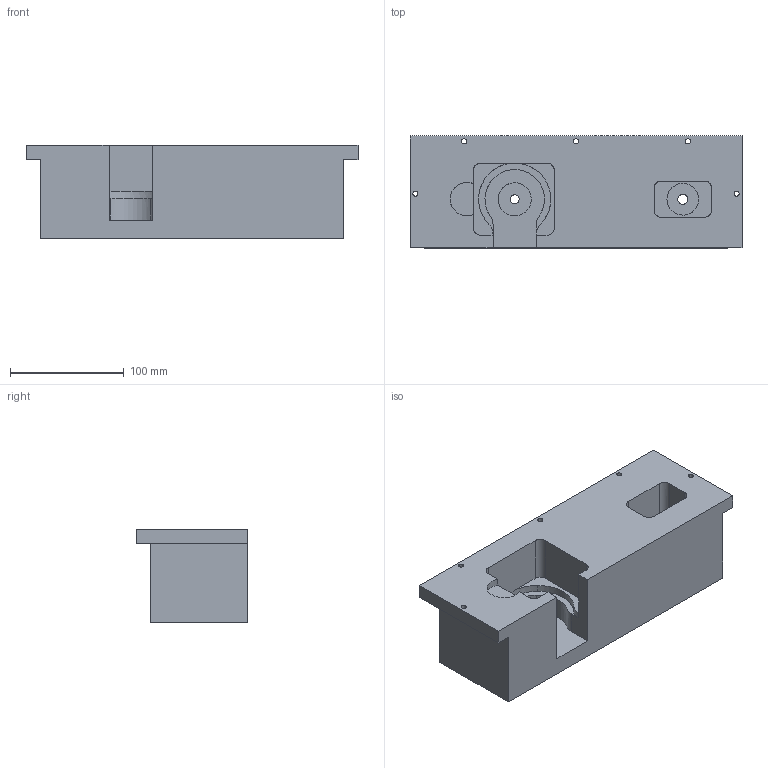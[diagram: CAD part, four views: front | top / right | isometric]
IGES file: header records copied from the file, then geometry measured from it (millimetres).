
Global section: file name: /Users/Pablo/Desktop/long_front_mold.igs; native system: VectorWorks; preprocessor: HarmonyWare IGES v1.6.3; date: 20120322.110446; units: millimetre
Bounding box: 292.1 x 98.42 x 82.55 mm (x, y, z)
Surface area: 139306.7 mm2 (no closed solid volume)
Topology: 0 solids, 0 shells, 76 faces, 468 edges, 463 vertices
Faces by surface type: bspline 76
